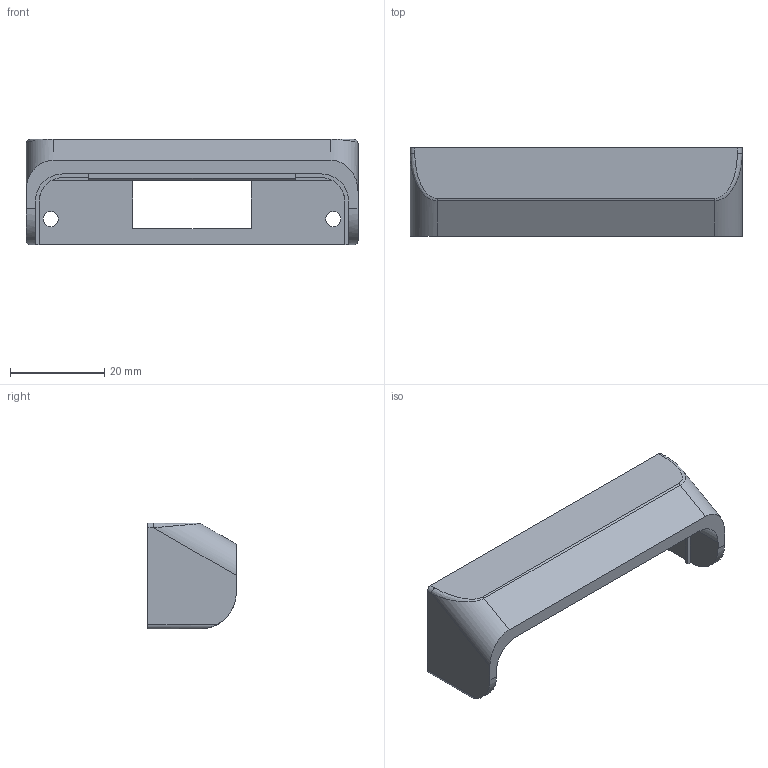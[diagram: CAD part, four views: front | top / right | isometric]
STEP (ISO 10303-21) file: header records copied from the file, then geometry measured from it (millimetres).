
FILE_DESCRIPTION (( 'STEP AP203' ), '1' );
FILE_NAME ('ESP32-S3-BOX-3_BRACKET.STEP', '2023-09-19T07:19:35', ( 'Windows User' ), ( 'P R C' ), 'SwSTEP 2.0', 'SolidWorks 2017', '' );
FILE_SCHEMA (( 'CONFIG_CONTROL_DESIGN' ));
Length unit declared in the file: millimetre
Products named in the file (1): ESP32-S3-BOX-3_BRACKET
Bounding box: 70.5 x 18.8 x 22.5 mm (x, y, z)
Volume: 7954.2 mm3; surface area: 7510.9 mm2
Topology: 1 solids, 1 shells, 105 faces, 303 edges, 201 vertices
Faces by surface type: plane 62, cylinder 39, bspline 2, torus 2
Entity records: 3621 total; most frequent: CARTESIAN_POINT 729, ORIENTED_EDGE 606, DIRECTION 576, EDGE_CURVE 303, VECTOR 216, LINE 216, VERTEX_POINT 201, AXIS2_PLACEMENT_3D 180
